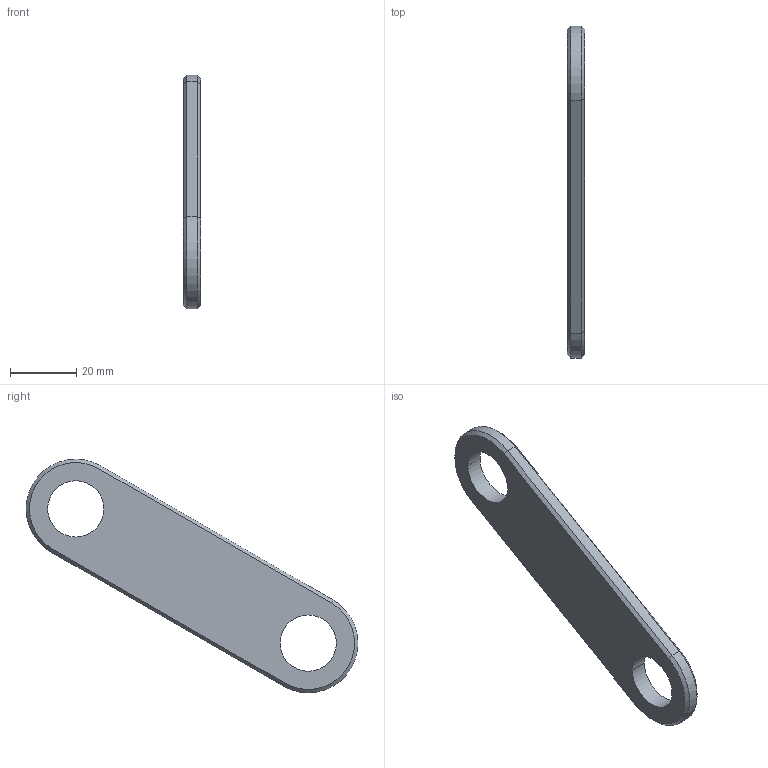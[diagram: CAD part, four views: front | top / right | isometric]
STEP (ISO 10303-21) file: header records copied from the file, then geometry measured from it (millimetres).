
FILE_DESCRIPTION(('CATIA V5 STEP Exchange','CAx-IF Rec.Pracs.--- Model Styling and Organization---1.2---2011-12-15'),'2;1');
FILE_NAME('X:\Projects\INTERIORS\VEMINA\IL-96-026_027\2.WORK_DATA\01.USERS\dmitriy.khorkov\02 OUT DATA\Пак 5_Листовые детали\STP\V.9626.7522.810.051-05.stp','2025-07-03T04:50:26+00:00',('none'),('none'),'CATIA Version 5-6 Release 2013 SP6 HF12','CATIA V5 STEP AP214','none');
FILE_SCHEMA(('AUTOMOTIVE_DESIGN { 1 0 10303 214 1 1 1 1 }'));
Length unit declared in the file: millimetre
Products named in the file (1): V.9626.7522.810.051-05
Bounding box: 5.2 x 100.2 x 70.53 mm (x, y, z)
Volume: 13706.5 mm3; surface area: 6955.2 mm2
Topology: 1 solids, 1 shells, 18 faces, 40 edges, 24 vertices
Faces by surface type: plane 8, cylinder 6, cone 4
Entity records: 499 total; most frequent: CARTESIAN_POINT 81, ORIENTED_EDGE 80, DIRECTION 72, EDGE_CURVE 40, AXIS2_PLACEMENT_3D 33, VECTOR 24, LINE 24, VERTEX_POINT 24
